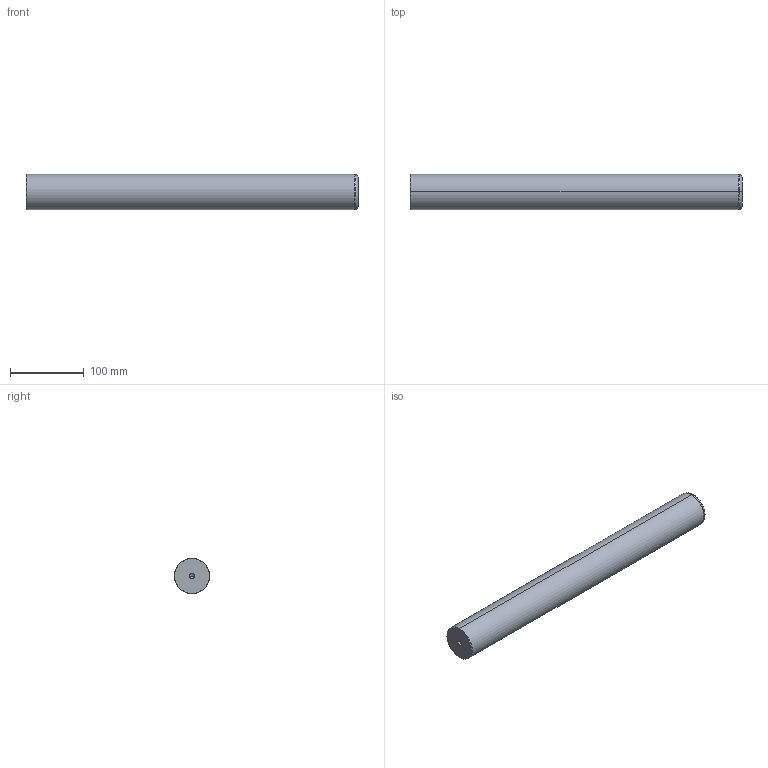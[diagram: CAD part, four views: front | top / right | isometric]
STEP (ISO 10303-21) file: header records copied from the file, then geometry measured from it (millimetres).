
FILE_DESCRIPTION(('CATIA V5 STEP Exchange'),'2;1');
FILE_NAME('C:\Users\Utente\Desktop\IO LAVORO\3D X SITO CF\X SITO\720\720-48x450.stp','2020-12-30T21:46:29+00:00',('none'),('none'),'CATIA Version 5 Release 20 GA (IN-10)','CATIA V5 STEP AP203','none');
FILE_SCHEMA(('CONFIG_CONTROL_DESIGN'));
Length unit declared in the file: millimetre
Products named in the file (1): 720-48x450
Bounding box: 450 x 48 x 48 mm (x, y, z)
Volume: 811790.2 mm3; surface area: 72085.8 mm2
Topology: 1 solids, 1 shells, 22 faces, 62 edges, 40 vertices
Faces by surface type: cone 12, cylinder 6, plane 2, torus 2
Entity records: 806 total; most frequent: CARTESIAN_POINT 229, ORIENTED_EDGE 116, DIRECTION 93, EDGE_CURVE 58, AXIS2_PLACEMENT_3D 54, VERTEX_POINT 40, CIRCLE 31, EDGE_LOOP 24
